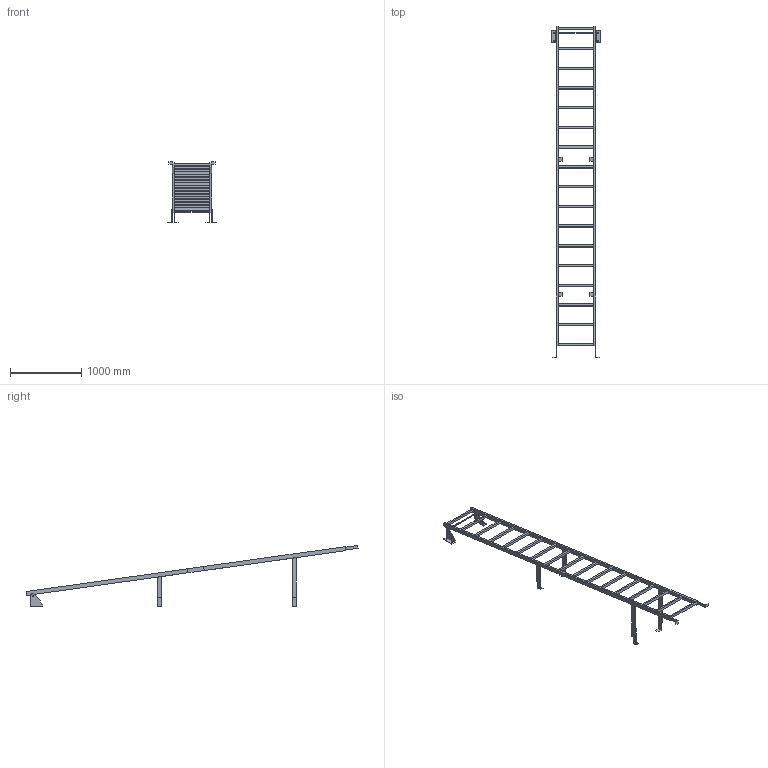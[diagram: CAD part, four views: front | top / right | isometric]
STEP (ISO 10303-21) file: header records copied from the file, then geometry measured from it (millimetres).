
FILE_DESCRIPTION((''),'2;1');
FILE_NAME('52310370','2024-10-17T09:08:31',('wep'),('HUBER SE'),'CREO PARAMETRIC BY PTC INC, 2022162','CREO PARAMETRIC BY PTC INC, 2022162','');
FILE_SCHEMA(('AUTOMOTIVE_DESIGN { 1 0 10303 214 1 1 1 1 }'));
Length unit declared in the file: millimetre
Products named in the file (1): 52310370
Bounding box: 690 x 4664.97 x 856.94 mm (x, y, z)
Volume: 23419314.7 mm3; surface area: 3120651.5 mm2
Topology: 11 solids, 11 shells, 200 faces, 516 edges, 344 vertices
Faces by surface type: plane 184, cylinder 16
Entity records: 6625 total; most frequent: CARTESIAN_POINT 1062, ORIENTED_EDGE 1032, DIRECTION 948, EDGE_CURVE 516, VECTOR 484, LINE 484, VERTEX_POINT 344, EDGE_LOOP 248
